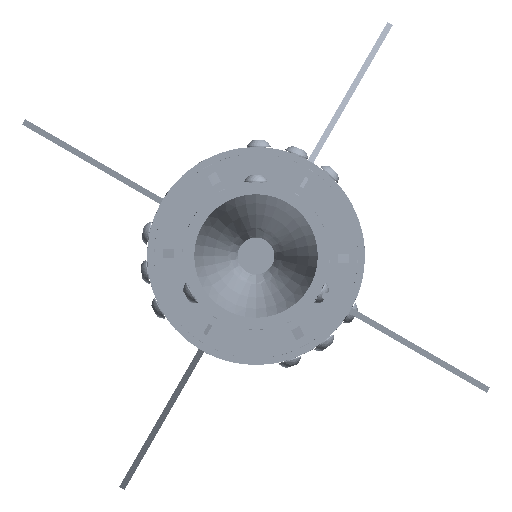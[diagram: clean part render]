
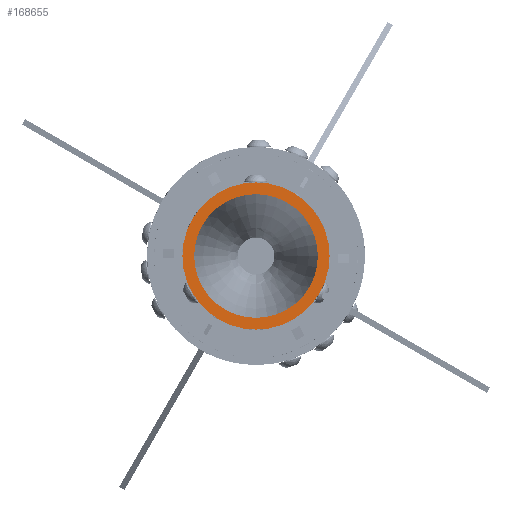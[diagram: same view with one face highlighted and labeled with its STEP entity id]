
A CAD part, front view. The second image highlights one B-rep face of the part: STEP entity #168655.
In plain terms, the highlighted planar face has unit normal (0, -1, 0).
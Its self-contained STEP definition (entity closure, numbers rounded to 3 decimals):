
#9612 = EDGE_CURVE ( 'NONE', #405460, #279194, #11950, .T. ) ;
#11950 = CIRCLE ( 'NONE', #83372, 25.21 ) ;
#26489 = FACE_OUTER_BOUND ( 'NONE', #223129, .T. ) ;
#27674 = DIRECTION ( 'NONE',  ( 0., 0., 1. ) ) ;
#37626 = CARTESIAN_POINT ( 'NONE',  ( 0., -52.844, 30. ) ) ;
#41292 = ORIENTED_EDGE ( 'NONE', *, *, #204379, .F. ) ;
#61438 = CIRCLE ( 'NONE', #437942, 30. ) ;
#83372 = AXIS2_PLACEMENT_3D ( 'NONE', #511227, #556022, #559152 ) ;
#108686 = DIRECTION ( 'NONE',  ( 0., 1., 0. ) ) ;
#114944 = DIRECTION ( 'NONE',  ( 0., 0., 1. ) ) ;
#117499 = ORIENTED_EDGE ( 'NONE', *, *, #427233, .T. ) ;
#149422 = EDGE_LOOP ( 'NONE', ( #117499, #558116 ) ) ;
#168655 = ADVANCED_FACE ( 'NONE', ( #26489, #319555 ), #227034, .F. ) ;
#179188 = DIRECTION ( 'NONE',  ( 0., 1., 0. ) ) ;
#204379 = EDGE_CURVE ( 'NONE', #628514, #443670, #61438, .T. ) ;
#205185 = AXIS2_PLACEMENT_3D ( 'NONE', #615850, #179188, #360648 ) ;
#223129 = EDGE_LOOP ( 'NONE', ( #41292, #274104 ) ) ;
#227034 = PLANE ( 'NONE',  #205185 ) ;
#228633 = DIRECTION ( 'NONE',  ( 0., 1., 0. ) ) ;
#269712 = CARTESIAN_POINT ( 'NONE',  ( 0., -52.844, 0. ) ) ;
#274104 = ORIENTED_EDGE ( 'NONE', *, *, #566491, .F. ) ;
#276438 = CARTESIAN_POINT ( 'NONE',  ( 0., -52.844, 0. ) ) ;
#279194 = VERTEX_POINT ( 'NONE', #361428 ) ;
#291071 = CIRCLE ( 'NONE', #535442, 30. ) ;
#310775 = AXIS2_PLACEMENT_3D ( 'NONE', #551574, #108686, #114944 ) ;
#319555 = FACE_BOUND ( 'NONE', #149422, .T. ) ;
#360648 = DIRECTION ( 'NONE',  ( 0., 0., 1. ) ) ;
#361428 = CARTESIAN_POINT ( 'NONE',  ( 0., -52.844, 25.21 ) ) ;
#405460 = VERTEX_POINT ( 'NONE', #508375 ) ;
#422895 = DIRECTION ( 'NONE',  ( 0., 0., 1. ) ) ;
#427233 = EDGE_CURVE ( 'NONE', #279194, #405460, #575157, .T. ) ;
#437942 = AXIS2_PLACEMENT_3D ( 'NONE', #276438, #228633, #422895 ) ;
#443670 = VERTEX_POINT ( 'NONE', #577203 ) ;
#464063 = DIRECTION ( 'NONE',  ( 0., 1., 0. ) ) ;
#508375 = CARTESIAN_POINT ( 'NONE',  ( 0., -52.844, -25.21 ) ) ;
#511227 = CARTESIAN_POINT ( 'NONE',  ( 0., -52.844, 0. ) ) ;
#535442 = AXIS2_PLACEMENT_3D ( 'NONE', #269712, #464063, #27674 ) ;
#551574 = CARTESIAN_POINT ( 'NONE',  ( 0., -52.844, 0. ) ) ;
#556022 = DIRECTION ( 'NONE',  ( 0., 1., 0. ) ) ;
#558116 = ORIENTED_EDGE ( 'NONE', *, *, #9612, .T. ) ;
#559152 = DIRECTION ( 'NONE',  ( 0., 0., 1. ) ) ;
#566491 = EDGE_CURVE ( 'NONE', #443670, #628514, #291071, .T. ) ;
#575157 = CIRCLE ( 'NONE', #310775, 25.21 ) ;
#577203 = CARTESIAN_POINT ( 'NONE',  ( 0., -52.844, -30. ) ) ;
#615850 = CARTESIAN_POINT ( 'NONE',  ( 30., -52.844, 0. ) ) ;
#628514 = VERTEX_POINT ( 'NONE', #37626 ) ;
